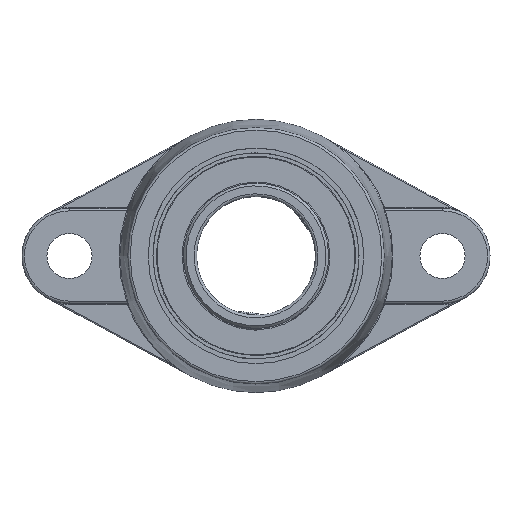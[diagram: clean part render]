
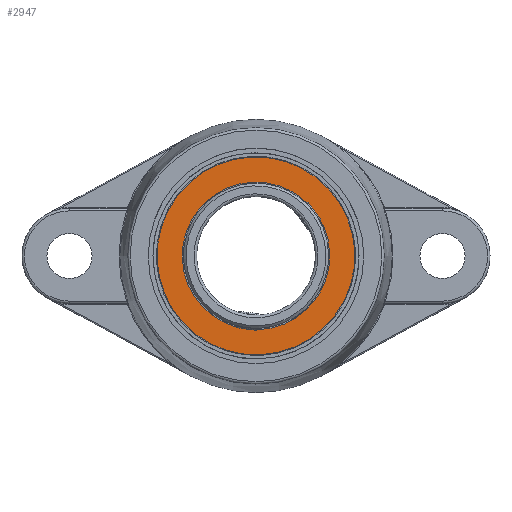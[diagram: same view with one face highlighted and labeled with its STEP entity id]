
A CAD part, top view. The second image highlights one B-rep face of the part: STEP entity #2947.
In plain terms, the highlighted planar face has unit normal (0, 0, 1) as drawn and (1, 0, 0) by its records, which use the part's own axes.
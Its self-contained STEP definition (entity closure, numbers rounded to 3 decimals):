
#163=FACE_BOUND('',#910,.T.);
#221=PLANE('',#3530);
#721=FACE_OUTER_BOUND('',#909,.T.);
#909=EDGE_LOOP('',(#2750));
#910=EDGE_LOOP('',(#2751));
#1163=CIRCLE('',#3528,41.645);
#1165=CIRCLE('',#3531,31.055);
#1453=VERTEX_POINT('',#7485);
#1455=VERTEX_POINT('',#7491);
#1885=EDGE_CURVE('',#1453,#1453,#1163,.T.);
#1888=EDGE_CURVE('',#1455,#1455,#1165,.T.);
#2750=ORIENTED_EDGE('',*,*,#1885,.T.);
#2751=ORIENTED_EDGE('',*,*,#1888,.F.);
#2947=ADVANCED_FACE('',(#721,#163),#221,.T.);
#3528=AXIS2_PLACEMENT_3D('',#7486,#4447,#4448);
#3530=AXIS2_PLACEMENT_3D('',#7490,#4452,#4453);
#3531=AXIS2_PLACEMENT_3D('',#7492,#4454,#4455);
#4447=DIRECTION('center_axis',(1.,0.,0.));
#4448=DIRECTION('ref_axis',(0.,0.,-1.));
#4452=DIRECTION('center_axis',(1.,0.,0.));
#4453=DIRECTION('ref_axis',(0.,0.,-1.));
#4454=DIRECTION('center_axis',(1.,0.,0.));
#4455=DIRECTION('ref_axis',(0.,0.,-1.));
#7485=CARTESIAN_POINT('',(11.5,-41.645,0.));
#7486=CARTESIAN_POINT('Origin',(11.5,0.,0.));
#7490=CARTESIAN_POINT('Origin',(11.5,31.055,0.));
#7491=CARTESIAN_POINT('',(11.5,-31.055,0.));
#7492=CARTESIAN_POINT('Origin',(11.5,0.,0.));
